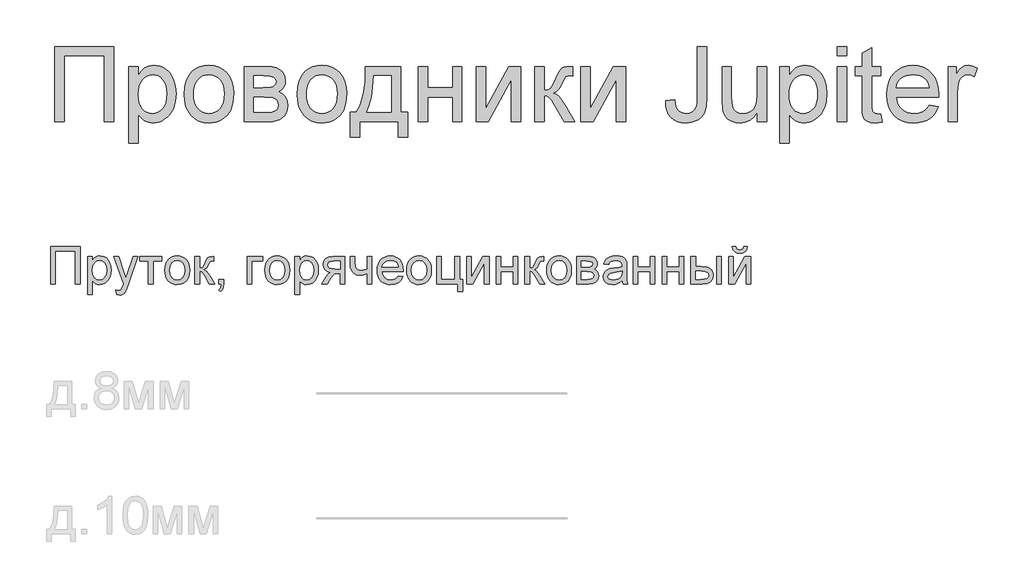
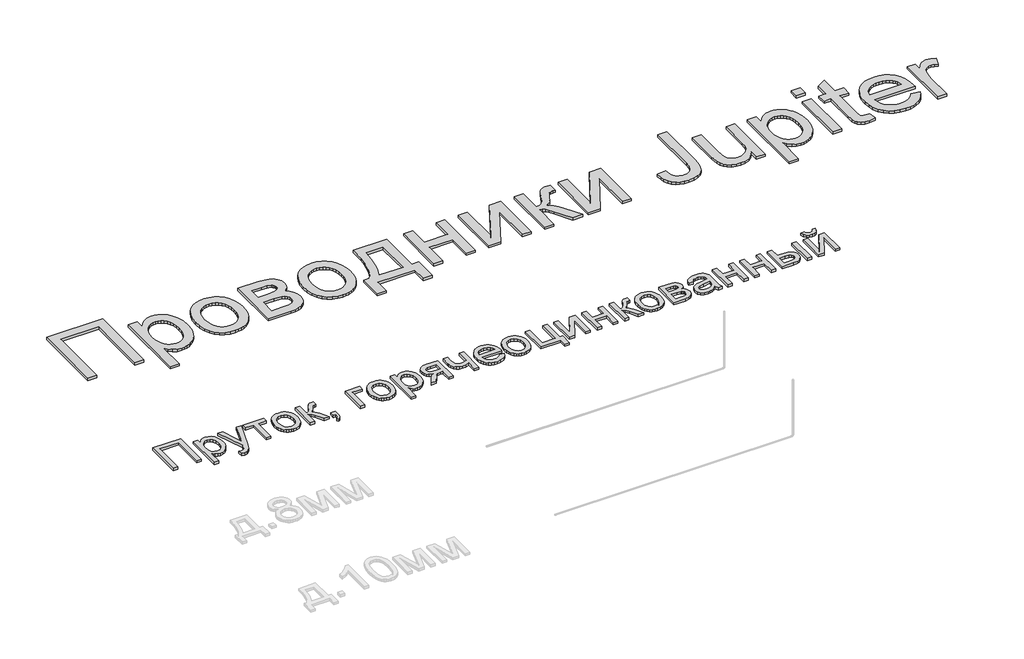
# One storey, part 97 of 124: 2 proxies.
"""IFC4 building model written with IfcOpenShell, lengths in millimetres."""

from ifc_helpers import new_model, si_unit, origin, origin_with_axes, place, context, project, spatial, polyline, outline, extrude, element, save

model = new_model("IFC4")

# Units and contexts
model_context = context("Model", 3, world=origin())
ifc_project = project(units=[si_unit("LENGTHUNIT", "METRE", prefix="MILLI")], contexts=[model_context])

# Site, building, storey
site = spatial("IfcSite", under=ifc_project)
building = spatial("IfcBuilding", under=site)
storey = spatial("IfcBuildingStorey", under=building, Name="Этаж 01", Elevation=0.0)

# Proxies
placement = place(None, origin())
element("IfcBuildingElementProxy", 1, Name="600 мм Arial", ObjectType="600 мм Arial", at=placement, inside=storey, context=model_context, shape_type="SweptSolid", body=[
    extrude(outline(polyline([(1332.7842945, -2616.7762424), (1803.6732483, -2616.7762424), (1803.6732483, -3219.5141033), (1728.3310157, -3219.5141033), (1728.3310157, -2692.118475), (1408.1265271, -2692.118475), (1408.1265271, -3219.5141033), (1332.7842945, -3219.5141033), (1332.7842945, -2616.7762424)])), origin_with_axes(), (0.0, 0.0, 1.0), 20.0),
    extrude(outline(polyline([(1926.1043763, -3389.0341266), (1926.1043763, -2776.8784867), (2001.4466089, -2776.8784867), (2001.4466089, -2850.7491913), (2026.0211262, -2814.3104797), (2053.5386994, -2788.2828285), (2085.6180094, -2772.6662378), (2123.8777369, -2767.4607076), (2150.1537084, -2769.2817235), (2174.8293932, -2774.7447711), (2197.9047914, -2783.8498505), (2219.3799028, -2796.5969616), (2238.7856781, -2812.6550107), (2255.6530676, -2831.6929039), (2269.9820713, -2853.7106414), (2281.7726892, -2878.7082229), (2297.5548268, -2934.221616), (2302.8155393, -2994.8117806), (2296.8742451, -3059.2463121), (2289.4476273, -3088.9113964), (2279.0503625, -3116.8750266), (2265.8250047, -3142.4060371), (2249.9141084, -3164.7732624), (2231.3176736, -3183.9767025), (2210.0357002, -3200.0163575), (2187.1120533, -3212.6668996), (2163.5905983, -3221.7030011), (2139.471335, -3227.124662), (2114.7542634, -3228.9318823), (2080.1181736, -3224.0942341), (2049.1976919, -3209.5812894), (2022.7285823, -3187.6739166), (2001.4466089, -3160.652984), (2001.4466089, -3389.0341266), (1926.1043763, -3389.0341266)]), holes=[polyline([(2001.4466089, -3001.7279621), (2003.4837554, -3038.037915), (2009.5951951, -3069.2710964), (2019.7809278, -3095.4275063), (2034.0409537, -3116.5071446), (2051.2072473, -3132.7307406), (2070.1117833, -3144.3190234), (2090.7545617, -3151.2719932), (2113.1355826, -3153.5896497), (2135.8385003, -3151.1892197), (2156.8583578, -3143.9879297), (2176.1951551, -3131.9857796), (2193.8488924, -3115.1827694), (2208.5595737, -3093.339776), (2219.0672031, -3066.2176759), (2225.3717808, -3033.8164691), (2227.4733067, -2996.1361558), (2225.4223646, -2960.1389026), (2219.2695382, -2928.9609035), (2209.0148276, -2902.6021585), (2194.6582328, -2881.0626677), (2177.4505524, -2864.3240369), (2158.6425854, -2852.3678721), (2138.2343318, -2845.1941732), (2116.2257914, -2842.8029402), (2094.2862289, -2845.3459245), (2073.6434504, -2852.9748774), (2054.297456, -2865.6897988), (2036.2482456, -2883.4906889), (2021.0225296, -2906.1384242), (2010.1470181, -2933.3938815), (2003.6217112, -2965.2570608), (2001.4466089, -3001.7279621)])]), origin_with_axes(), (0.0, 0.0, 1.0), 20.0),
    extrude(outline(polyline([(2368.7399929, -2998.196295), (2372.814286, -2940.8710831), (2385.0371653, -2891.4737282), (2405.4086307, -2850.0042303), (2433.9286824, -2816.4625893), (2462.6418721, -2795.0242661), (2494.334906, -2779.711178), (2529.0077841, -2770.5233252), (2566.6605063, -2767.4607076), (2608.2265732, -2771.1901113), (2645.8103175, -2782.3783225), (2679.4117393, -2801.0253411), (2709.0308384, -2827.1311672), (2733.205284, -2859.812884), (2750.4727452, -2898.1875746), (2760.8332219, -2942.2552391), (2764.2867141, -2992.0158774), (2762.7600038, -3032.3449412), (2758.179873, -3068.1306622), (2750.5463216, -3099.3730407), (2739.8593496, -3126.0720765), (2726.2523143, -3149.1336791), (2709.8585729, -3169.4637578), (2690.6781254, -3187.0623128), (2668.7109717, -3201.9293439), (2644.8124376, -3213.7429545), (2619.8378487, -3222.1812477), (2593.7872049, -3227.2442237), (2566.6605063, -3228.9318823), (2524.4874341, -3225.2162742), (2486.5542018, -3214.0694497), (2452.8608096, -3195.491409), (2423.4072574, -3169.4821519), (2399.4903292, -3136.4831369), (2382.406809, -3096.9358225), (2372.1566969, -3050.8402085), (2368.7399929, -2998.196295)]), holes=[polyline([(2444.0822255, -2998.0491422), (2446.2619263, -3034.5936199), (2452.8010288, -3066.23607), (2463.6995329, -3092.9764925), (2478.9574386, -3114.8148874), (2497.5170853, -3131.7788459), (2518.3208121, -3143.8959592), (2541.3686191, -3151.1662271), (2566.6605063, -3153.5896497), (2591.8236348, -3151.1524315), (2614.7794713, -3143.8407769), (2635.5280158, -3131.6546858), (2654.0692683, -3114.5941582), (2669.3271741, -3092.5396326), (2680.2256782, -3065.3715473), (2686.7647807, -3033.0899022), (2688.9444815, -2995.6946974), (2686.7509851, -2960.309048), (2680.1704959, -2929.4943324), (2669.2030139, -2903.2505505), (2653.8485391, -2881.5777025), (2635.2383087, -2864.613744), (2614.5035598, -2852.4966308), (2591.6442923, -2845.2263628), (2566.6605063, -2842.8029402), (2541.3686191, -2845.2171658), (2518.3208121, -2852.4598426), (2497.5170853, -2864.5309705), (2478.9574386, -2881.4305497), (2463.6995329, -2903.2045653), (2452.8010288, -2929.8990026), (2446.2619263, -2961.5138615), (2444.0822255, -2998.0491422)])]), origin_with_axes(), (0.0, 0.0, 1.0), 20.0),
    extrude(outline(polyline([(2849.0467258, -2776.8784867), (3015.035082, -2776.8784867), (3068.3963654, -2779.3984783), (3106.0490876, -2786.9584533), (3133.7506018, -2801.2322747), (3157.2582613, -2823.8938056), (3173.3163104, -2853.4163358), (3178.6689935, -2888.2731548), (3175.4316319, -2916.3609451), (3165.7195472, -2940.5859745), (3149.4959512, -2961.0586075), (3126.7240557, -2977.8892088), (3154.609511, -2993.5425877), (3177.3446183, -3018.7241103), (3192.4645683, -3051.4472138), (3197.5045516, -3089.7253354), (3193.3198939, -3120.5630436), (3184.7390464, -3147.1517148), (3171.762009, -3169.491349), (3154.3887818, -3187.5819461), (3132.5917736, -3201.5522648), (3106.3433932, -3211.531064), (3075.6436407, -3217.5183434), (3040.4925161, -3219.5141033), (2849.0467258, -3219.5141033), (2849.0467258, -2776.8784867)]), holes=[polyline([(2924.3889584, -2946.39851), (2998.8482742, -2946.39851), (3060.2845674, -2942.5725373), (3076.1034932, -2936.8335782), (3090.1565854, -2927.2686463), (3100.034217, -2914.6135057), (3103.3267608, -2899.6039203), (3101.882824, -2887.3626469), (3097.5510135, -2877.1263303), (3090.3313294, -2868.8949707), (3080.2237716, -2862.6685679), (3048.9170138, -2854.8326814), (3001.202719, -2852.2207193), (2924.3889584, -2852.2207193), (2924.3889584, -2946.39851)]), polyline([(2924.3889584, -3144.1718706), (3016.8009156, -3144.1718706), (3067.1639607, -3140.7689622), (3098.7650241, -3130.5602368), (3108.5598822, -3122.5174167), (3115.7243841, -3112.0005902), (3122.162319, -3083.5449178), (3118.9433515, -3064.6909656), (3109.2864492, -3047.2717531), (3094.4608048, -3033.6417252), (3075.7356112, -3026.1553266), (3009.4432757, -3021.7407427), (2924.3889584, -3021.7407427), (2924.3889584, -3144.1718706)])]), origin_with_axes(), (0.0, 0.0, 1.0), 20.0),
    extrude(outline(polyline([(3272.8467842, -2998.196295), (3276.9210773, -2940.8710831), (3289.1439566, -2891.4737282), (3309.5154221, -2850.0042303), (3338.0354738, -2816.4625893), (3366.7486635, -2795.0242661), (3398.4416974, -2779.711178), (3433.1145754, -2770.5233252), (3470.7672976, -2767.4607076), (3512.3333646, -2771.1901113), (3549.9171089, -2782.3783225), (3583.5185306, -2801.0253411), (3613.1376298, -2827.1311672), (3637.3120754, -2859.812884), (3654.5795365, -2898.1875746), (3664.9400132, -2942.2552391), (3668.3935054, -2992.0158774), (3666.8667952, -3032.3449412), (3662.2866643, -3068.1306622), (3654.6531129, -3099.3730407), (3643.966141, -3126.0720765), (3630.3591057, -3149.1336791), (3613.9653643, -3169.4637578), (3594.7849167, -3187.0623128), (3572.8177631, -3201.9293439), (3548.919229, -3213.7429545), (3523.94464, -3222.1812477), (3497.8939963, -3227.2442237), (3470.7672976, -3228.9318823), (3428.5942254, -3225.2162742), (3390.6609932, -3214.0694497), (3356.9676009, -3195.491409), (3327.5140487, -3169.4821519), (3303.5971205, -3136.4831369), (3286.5136003, -3096.9358225), (3276.2634883, -3050.8402085), (3272.8467842, -2998.196295)]), holes=[polyline([(3348.1890168, -2998.0491422), (3350.3687177, -3034.5936199), (3356.9078201, -3066.23607), (3367.8063242, -3092.9764925), (3383.06423, -3114.8148874), (3401.6238766, -3131.7788459), (3422.4276035, -3143.8959592), (3445.4754105, -3151.1662271), (3470.7672976, -3153.5896497), (3495.9304261, -3151.1524315), (3518.8862626, -3143.8407769), (3539.6348071, -3131.6546858), (3558.1760597, -3114.5941582), (3573.4339654, -3092.5396326), (3584.3324695, -3065.3715473), (3590.871572, -3033.0899022), (3593.0512728, -2995.6946974), (3590.8577764, -2960.309048), (3584.2772872, -2929.4943324), (3573.3098053, -2903.2505505), (3557.9553305, -2881.5777025), (3539.3451001, -2864.613744), (3518.6103511, -2852.4966308), (3495.7510836, -2845.2263628), (3470.7672976, -2842.8029402), (3445.4754105, -2845.2171658), (3422.4276035, -2852.4598426), (3401.6238766, -2864.5309705), (3383.06423, -2881.4305497), (3367.8063242, -2903.2045653), (3356.9078201, -2929.8990026), (3350.3687177, -2961.5138615), (3348.1890168, -2998.0491422)])]), origin_with_axes(), (0.0, 0.0, 1.0), 20.0),
    extrude(outline(polyline([(3819.0779707, -2776.8784867), (4101.611343, -2776.8784867), (4101.611343, -3144.1718706), (4158.1180174, -3144.1718706), (4158.1180174, -3341.9452313), (4082.7757848, -3341.9452313), (4082.7757848, -3219.5141033), (3771.9890753, -3219.5141033), (3771.9890753, -3341.9452313), (3696.6468427, -3341.9452313), (3696.6468427, -3144.1718706), (3743.7357381, -3144.1718706), (3762.1344363, -3115.7391909), (3777.9671577, -3082.3125132), (3791.2339022, -3043.8918373), (3801.9346697, -3000.4771633), (3810.0694603, -2952.0684913), (3815.638274, -2898.6658212), (3819.0779707, -2776.8784867)]), holes=[polyline([(3885.0024242, -2852.2207193), (3878.8220067, -2944.4671296), (3867.3440884, -3023.8744582), (3850.5686695, -3090.4427053), (3828.4957497, -3144.1718706), (4026.2691103, -3144.1718706), (4026.2691103, -2852.2207193), (3885.0024242, -2852.2207193)])]), origin_with_axes(), (0.0, 0.0, 1.0), 20.0),
    extrude(outline(polyline([(4242.8780291, -2776.8784867), (4318.2202617, -2776.8784867), (4318.2202617, -2946.39851), (4515.9936223, -2946.39851), (4515.9936223, -2776.8784867), (4591.3358549, -2776.8784867), (4591.3358549, -3219.5141033), (4515.9936223, -3219.5141033), (4515.9936223, -3021.7407427), (4318.2202617, -3021.7407427), (4318.2202617, -3219.5141033), (4242.8780291, -3219.5141033), (4242.8780291, -2776.8784867)])), origin_with_axes(), (0.0, 0.0, 1.0), 20.0),
    extrude(outline(polyline([(4704.3492039, -2776.8784867), (4779.6914365, -2776.8784867), (4779.6914365, -3114.4470054), (4964.8096564, -2776.8784867), (5062.2248088, -2776.8784867), (5062.2248088, -3219.5141033), (4986.8825762, -3219.5141033), (4986.8825762, -2884.0057237), (4802.9415786, -3219.5141033), (4704.3492039, -3219.5141033), (4704.3492039, -2776.8784867)])), origin_with_axes(), (0.0, 0.0, 1.0), 20.0),
    extrude(outline(polyline([(5175.2381577, -2776.8784867), (5250.5803903, -2776.8784867), (5250.5803903, -2965.2340682), (5281.2249605, -2961.8495538), (5301.0538, -2951.6960108), (5318.6017712, -2925.2085071), (5342.4037363, -2872.822111), (5361.5887823, -2829.9822527), (5376.7639146, -2804.7639419), (5390.9273715, -2791.0235494), (5407.077391, -2782.6174458), (5429.4262223, -2778.3132264), (5462.1861139, -2776.8784867), (5476.6070881, -2776.8784867), (5476.6070881, -2852.6621777), (5456.300002, -2852.2207193), (5432.7555543, -2854.2072821), (5419.5118025, -2860.1669704), (5408.7696482, -2876.7584484), (5393.61291, -2909.7574633), (5377.7020137, -2942.8116606), (5363.2258572, -2963.3946582), (5345.6962801, -2977.1350507), (5320.6251222, -2989.6614327), (5344.5006637, -3000.2656312), (5368.155476, -3018.9816277), (5391.589559, -3045.8094222), (5414.8029129, -3080.7490147), (5495.4426463, -3219.5141033), (5409.7997178, -3219.5141033), (5330.7786652, -3083.6920706), (5309.4415095, -3047.5476646), (5291.0474098, -3026.228903), (5272.469369, -3015.7994484), (5250.5803903, -3012.3229636), (5250.5803903, -3219.5141033), (5175.2381577, -3219.5141033), (5175.2381577, -2776.8784867)])), origin_with_axes(), (0.0, 0.0, 1.0), 20.0),
    extrude(outline(polyline([(5542.5315417, -2776.8784867), (5617.8737743, -2776.8784867), (5617.8737743, -3114.4470054), (5802.9919943, -2776.8784867), (5900.4071466, -2776.8784867), (5900.4071466, -3219.5141033), (5825.064914, -3219.5141033), (5825.064914, -2884.0057237), (5641.1239164, -3219.5141033), (5542.5315417, -3219.5141033), (5542.5315417, -2776.8784867)])), origin_with_axes(), (0.0, 0.0, 1.0), 20.0),
    extrude(outline(polyline([(6220.6116352, -3050.2883855), (6295.9538678, -3040.5763008), (6298.6118152, -3070.5310923), (6303.7897543, -3095.3539299), (6311.487685, -3115.0448137), (6321.7056075, -3129.6037436), (6334.2871717, -3140.0975776), (6349.0760279, -3147.5931732), (6366.0721761, -3152.0905306), (6385.2756162, -3153.5896497), (6413.1058892, -3150.1867413), (6436.8526719, -3139.9780159), (6455.1731953, -3123.9015727), (6466.72469, -3102.8955108), (6472.8499252, -3072.4900639), (6474.8916702, -3028.2154658), (6474.8916702, -2616.7762424), (6550.2339029, -2616.7762424), (6550.2339029, -3026.8910906), (6545.6905602, -3093.9743724), (6540.0113819, -3121.101071), (6532.0605323, -3143.9511415), (6521.6402748, -3163.4350916), (6508.5528728, -3180.4634295), (6492.7983264, -3195.036155), (6474.3766355, -3207.1532682), (6431.4632007, -3223.4872288), (6381.7439491, -3228.9318823), (6344.6154587, -3226.1221836), (6312.1038874, -3217.6930874), (6284.2092351, -3203.6445937), (6260.9315018, -3183.9767025), (6242.6845549, -3158.7629903), (6229.8822615, -3128.0770334), (6222.5246216, -3091.9188318), (6220.6116352, -3050.2883855)])), origin_with_axes(), (0.0, 0.0, 1.0), 20.0),
    extrude(outline(polyline([(6955.1984031, -3219.5141033), (6955.1984031, -3143.4361067), (6927.9383473, -3180.8405085), (6896.1901311, -3207.5579384), (6859.9537546, -3223.5883964), (6819.2292177, -3228.9318823), (6782.5329887, -3225.179486), (6748.3751455, -3213.9222969), (6719.717138, -3196.9997252), (6699.5204165, -3176.2511806), (6685.9271768, -3151.051264), (6677.0796148, -3120.7745758), (6672.6650309, -3050.7298439), (6672.6650309, -2776.8784867), (6748.0072635, -2776.8784867), (6748.0072635, -3015.2660195), (6749.1476976, -3062.9435261), (6752.5690002, -3092.0797801), (6763.5502778, -3117.7027611), (6782.3674418, -3137.1821127), (6807.7696936, -3149.4877655), (6838.5062343, -3153.5896497), (6871.0086086, -3149.395795), (6901.4140555, -3136.8142307), (6926.4852134, -3117.0037853), (6942.9847209, -3091.1232869), (6952.1449826, -3055.6778567), (6955.1984031, -3007.1726156), (6955.1984031, -2776.8784867), (7030.5406358, -2776.8784867), (7030.5406358, -3219.5141033), (6955.1984031, -3219.5141033)])), origin_with_axes(), (0.0, 0.0, 1.0), 20.0),
    extrude(outline(polyline([(7134.1362056, -3389.0341266), (7134.1362056, -2776.8784867), (7209.4784382, -2776.8784867), (7209.4784382, -2850.7491913), (7234.0529555, -2814.3104797), (7261.5705287, -2788.2828285), (7293.6498387, -2772.6662378), (7331.9095662, -2767.4607076), (7358.1855377, -2769.2817235), (7382.8612225, -2774.7447711), (7405.9366207, -2783.8498505), (7427.4117322, -2796.5969616), (7446.8175074, -2812.6550107), (7463.6848969, -2831.6929039), (7478.0139006, -2853.7106414), (7489.8045185, -2878.7082229), (7505.5866561, -2934.221616), (7510.8473687, -2994.8117806), (7504.9060744, -3059.2463121), (7497.4794567, -3088.9113964), (7487.0821918, -3116.8750266), (7473.856834, -3142.4060371), (7457.9459378, -3164.7732624), (7439.3495029, -3183.9767025), (7418.0675295, -3200.0163575), (7395.1438827, -3212.6668996), (7371.6224276, -3221.7030011), (7347.5031643, -3227.124662), (7322.7860927, -3228.9318823), (7288.1500029, -3224.0942341), (7257.2295212, -3209.5812894), (7230.7604116, -3187.6739166), (7209.4784382, -3160.652984), (7209.4784382, -3389.0341266), (7134.1362056, -3389.0341266)]), holes=[polyline([(7209.4784382, -3001.7279621), (7211.5155848, -3038.037915), (7217.6270244, -3069.2710964), (7227.8127571, -3095.4275063), (7242.072783, -3116.5071446), (7259.2390766, -3132.7307406), (7278.1436126, -3144.3190234), (7298.7863911, -3151.2719932), (7321.1674119, -3153.5896497), (7343.8703296, -3151.1892197), (7364.8901871, -3143.9879297), (7384.2269844, -3131.9857796), (7401.8807217, -3115.1827694), (7416.591403, -3093.339776), (7427.0990325, -3066.2176759), (7433.4036102, -3033.8164691), (7435.5051361, -2996.1361558), (7433.4541939, -2960.1389026), (7427.3013676, -2928.9609035), (7417.0466569, -2902.6021585), (7402.6900621, -2881.0626677), (7385.4823818, -2864.3240369), (7366.6744148, -2852.3678721), (7346.2661611, -2845.1941732), (7324.2576207, -2842.8029402), (7302.3180582, -2845.3459245), (7281.6752798, -2852.9748774), (7262.3292853, -2865.6897988), (7244.280075, -2883.4906889), (7229.0543589, -2906.1384242), (7218.1788474, -2933.3938815), (7211.6535405, -2965.2570608), (7209.4784382, -3001.7279621)])]), origin_with_axes(), (0.0, 0.0, 1.0), 20.0),
    extrude(outline(polyline([(7595.6073804, -2692.118475), (7595.6073804, -2616.7762424), (7670.949613, -2616.7762424), (7670.949613, -2692.118475), (7595.6073804, -2692.118475)])), origin_with_axes(), (0.0, 0.0, 1.0), 20.0),
    extrude(outline(polyline([(7595.6073804, -3219.5141033), (7595.6073804, -2776.8784867), (7670.949613, -2776.8784867), (7670.949613, -3219.5141033), (7595.6073804, -3219.5141033)])), origin_with_axes(), (0.0, 0.0, 1.0), 20.0),
    extrude(outline(polyline([(7944.0652062, -3156.6798585), (7953.4829853, -3221.7213952), (7897.1234636, -3228.9318823), (7860.9606635, -3225.8048854), (7833.9949132, -3216.4238945), (7814.9386259, -3201.9661321), (7802.5042144, -3183.6088205), (7795.6616093, -3152.0813335), (7793.380741, -3098.1130449), (7793.380741, -2852.2207193), (7736.8740665, -2852.2207193), (7736.8740665, -2776.8784867), (7793.380741, -2776.8784867), (7793.380741, -2669.3097913), (7868.7229736, -2625.0167991), (7868.7229736, -2776.8784867), (7944.0652062, -2776.8784867), (7944.0652062, -2852.2207193), (7868.7229736, -2852.2207193), (7868.7229736, -3095.9057529), (7872.6960991, -3134.7540916), (7885.5719689, -3148.5128782), (7896.4428819, -3152.3204568), (7911.2501322, -3153.5896497), (7944.0652062, -3156.6798585)])), origin_with_axes(), (0.0, 0.0, 1.0), 20.0),
    extrude(outline(polyline([(8329.3112315, -3087.6651962), (8403.1819362, -3097.0829753), (8391.8557692, -3126.6698847), (8376.5656738, -3152.7435211), (8357.3116499, -3175.3038845), (8334.0936975, -3194.3509748), (8307.1509398, -3209.4801218), (8276.7225003, -3220.2866555), (8242.8083789, -3226.7705756), (8205.4085756, -3228.9318823), (8158.659971, -3225.2024786), (8117.0065321, -3214.0142674), (8080.4482588, -3195.3672488), (8048.9851512, -3169.2614227), (8023.684067, -3136.4233561), (8005.611864, -3097.579616), (7994.7685422, -3052.7302022), (7991.1541016, -3001.8751149), (7994.8053304, -2949.2955808), (8005.7590168, -2902.9516464), (8024.0151608, -2862.8433119), (8049.5737624, -2828.9705772), (8080.9540966, -2802.0600092), (8116.6754383, -2782.838175), (8156.7377876, -2771.3050744), (8201.1411444, -2767.4607076), (8244.11436, -2771.2958774), (8282.9764942, -2782.8013868), (8317.7275472, -2801.9772358), (8348.3675189, -2828.8234244), (8373.378896, -2862.6225827), (8391.2441654, -2902.6573408), (8401.9633271, -2948.9276988), (8405.5363809, -3001.4336565), (8405.0949225, -3021.7407427), (8066.4963342, -3021.7407427), (8070.8603343, -3051.8058987), (8079.5377509, -3078.1370525), (8092.5285839, -3100.7342041), (8109.8328332, -3119.5973534), (8130.4940058, -3134.468983), (8153.5556083, -3145.0915756), (8179.0176409, -3151.4651312), (8206.8801035, -3153.5896497), (8246.979241, -3149.6533124), (8280.7508082, -3137.8443003), (8308.194805, -3117.4268496), (8329.3112315, -3087.6651962)]), holes=[polyline([(8066.4963342, -2946.39851), (8330.1941483, -2946.39851), (8320.0038171, -2906.5936782), (8311.2390285, -2890.9402993), (8300.0278247, -2878.1196117), (8279.4816153, -2862.6685679), (8256.1027145, -2851.6321081), (8229.8911223, -2845.0102322), (8200.8468388, -2842.8029402), (8174.3547366, -2844.5641753), (8150.0607294, -2849.8478804), (8127.964817, -2858.6540557), (8108.0669996, -2870.982701), (8091.3697556, -2886.2635994), (8078.8755633, -2903.9265337), (8070.5844228, -2923.9715039), (8066.4963342, -2946.39851)])]), origin_with_axes(), (0.0, 0.0, 1.0), 20.0),
    extrude(outline(polyline([(8480.8786135, -3219.5141033), (8480.8786135, -2776.8784867), (8546.8030671, -2776.8784867), (8546.8030671, -2842.3614818), (8571.1568552, -2804.3960599), (8593.5976569, -2782.0288346), (8616.112035, -2771.1027393), (8640.6865522, -2767.4607076), (8678.2105158, -2773.2732431), (8716.3230905, -2790.7108497), (8691.159962, -2858.253984), (8664.6724583, -2846.6657011), (8638.1849547, -2842.8029402), (8615.6889707, -2846.5185484), (8595.5842196, -2857.6653728), (8579.3422296, -2875.397285), (8568.4345284, -2898.8681563), (8559.2742667, -2940.9538565), (8556.2208462, -2986.8655295), (8556.2208462, -3219.5141033), (8480.8786135, -3219.5141033)])), origin_with_axes(), (0.0, 0.0, 1.0), 20.0),
])
element("IfcBuildingElementProxy", 2, Name="300", ObjectType="300", at=placement, inside=storey, context=model_context, shape_type="SweptSolid", body=[
    extrude(outline(polyline([(1299.8220677, -4218.1451728), (1535.2665446, -4218.1451728), (1535.2665446, -4519.5141033), (1497.5954283, -4519.5141033), (1497.5954283, -4255.8162891), (1337.493184, -4255.8162891), (1337.493184, -4519.5141033), (1299.8220677, -4519.5141033), (1299.8220677, -4218.1451728)])), origin_with_axes(), (0.0, 0.0, 1.0), 20.0),
    extrude(outline(polyline([(1596.4821086, -4604.2741149), (1596.4821086, -4298.196295), (1634.1532249, -4298.196295), (1634.1532249, -4335.1316473), (1646.4404835, -4316.9122915), (1660.1992702, -4303.8984659), (1676.2389252, -4296.0901705), (1695.3687889, -4293.4874054), (1720.8446171, -4297.1294372), (1743.1198719, -4308.0555324), (1761.2564542, -4325.6035036), (1774.3162651, -4349.1111631), (1782.2073339, -4376.8678596), (1784.8376901, -4407.1629419), (1781.867043, -4439.3802077), (1772.9551017, -4468.1945649), (1758.3869747, -4492.1436828), (1738.4477705, -4509.7652304), (1715.2252196, -4520.6085522), (1690.8070522, -4524.2229928), (1673.4890072, -4521.8041687), (1658.0287664, -4514.5476963), (1644.7942116, -4503.5940099), (1634.1532249, -4490.0835436), (1634.1532249, -4604.2741149), (1596.4821086, -4604.2741149)]), holes=[polyline([(1634.1532249, -4410.6210327), (1638.227518, -4444.3925998), (1650.4503973, -4468.0106239), (1668.4858121, -4481.9165634), (1689.9977118, -4486.5518765), (1711.8590993, -4481.7510165), (1730.3543666, -4467.3484363), (1742.963522, -4442.8658896), (1747.1665738, -4407.8251295), (1743.0646896, -4374.2375034), (1730.7590368, -4350.2883855), (1712.7512132, -4335.9409877), (1691.5428162, -4331.1585217), (1670.2516457, -4336.2444903), (1651.5540433, -4351.5023961), (1638.5034295, -4376.4539924), (1634.1532249, -4410.6210327)])]), origin_with_axes(), (0.0, 0.0, 1.0), 20.0),
    extrude(outline(polyline([(1827.217696, -4604.2741149), (1822.5088064, -4568.0009502), (1841.6386702, -4571.3118882), (1859.5177352, -4567.1548216), (1870.4806186, -4555.5665388), (1880.7813145, -4527.8282364), (1883.7243704, -4518.7047629), (1803.6732483, -4298.196295), (1843.4045038, -4298.196295), (1885.858086, -4421.0688814), (1900.6469422, -4470.2179159), (1915.4357984, -4426.8078405), (1959.0666031, -4298.196295), (1998.5035529, -4298.196295), (1921.4690631, -4524.811604), (1901.4562826, -4573.9606385), (1891.210769, -4589.6508056), (1879.6040921, -4600.5217186), (1866.121217, -4606.867683), (1850.2471089, -4608.9830045), (1827.217696, -4604.2741149)])), origin_with_axes(), (0.0, 0.0, 1.0), 20.0),
    extrude(outline(polyline([(2010.864388, -4298.196295), (2189.8021904, -4298.196295), (2189.8021904, -4335.8674113), (2119.1688474, -4335.8674113), (2119.1688474, -4519.5141033), (2081.497731, -4519.5141033), (2081.497731, -4335.8674113), (2010.864388, -4335.8674113), (2010.864388, -4298.196295)])), origin_with_axes(), (0.0, 0.0, 1.0), 20.0),
    extrude(outline(polyline([(2213.3466381, -4408.8551991), (2215.3837847, -4380.1925932), (2221.4952243, -4355.4939157), (2231.6809571, -4334.7591668), (2245.9409829, -4317.9883463), (2260.2975778, -4307.2691847), (2276.1440947, -4299.6126406), (2293.4805337, -4295.0187142), (2312.3068948, -4293.4874054), (2333.0899283, -4295.3521073), (2351.8818005, -4300.9462129), (2368.6825113, -4310.2697222), (2383.4920609, -4323.3226352), (2395.5792837, -4339.6634936), (2404.2130143, -4358.8508389), (2409.3932526, -4380.8846712), (2411.1199987, -4405.7649904), (2408.0665782, -4443.8223828), (2398.9063165, -4472.7930899), (2383.9059281, -4494.4889305), (2363.3321276, -4510.7217236), (2338.895566, -4520.8476755), (2312.3068948, -4524.2229928), (2291.2203587, -4522.3651887), (2272.2537426, -4516.7917765), (2255.4070465, -4507.5027561), (2240.6802704, -4494.4981276), (2228.7218063, -4477.9986201), (2220.1800462, -4458.2249629), (2215.0549901, -4435.1771559), (2213.3466381, -4408.8551991)]), holes=[polyline([(2251.0177544, -4408.7816227), (2255.3771561, -4442.8750866), (2268.455361, -4467.1644953), (2288.1370477, -4481.7050312), (2312.3068948, -4486.5518765), (2336.3663773, -4481.6774401), (2356.0112758, -4467.0541307), (2369.0894808, -4442.4428253), (2373.4488824, -4407.6044003), (2369.0618896, -4374.5042178), (2355.9009112, -4350.5459029), (2336.2284216, -4336.005367), (2312.3068948, -4331.1585217), (2288.1370477, -4335.9869729), (2268.455361, -4350.4723265), (2255.3771561, -4374.7065529), (2251.0177544, -4408.7816227)])]), origin_with_axes(), (0.0, 0.0, 1.0), 20.0),
    extrude(outline(polyline([(2453.5000046, -4298.196295), (2491.1711209, -4298.196295), (2491.1711209, -4392.3740857), (2506.493406, -4390.6818285), (2516.4078257, -4385.605057), (2525.1818113, -4372.3613052), (2537.0827939, -4346.1681071), (2554.262883, -4312.1390226), (2569.4196212, -4301.0657745), (2596.9739827, -4298.196295), (2604.1844698, -4298.196295), (2604.1844698, -4336.0881405), (2594.0309267, -4335.8674113), (2575.636827, -4339.8405368), (2562.6873807, -4364.6357833), (2547.4938543, -4391.4543807), (2526.1934868, -4404.587768), (2538.1312576, -4409.8898672), (2549.9586637, -4419.2478655), (2573.2823822, -4450.131559), (2613.6022489, -4519.5141033), (2570.7807846, -4519.5141033), (2531.2702583, -4451.603087), (2511.4046306, -4422.8715031), (2502.1156102, -4417.6567758), (2491.1711209, -4415.9185334), (2491.1711209, -4519.5141033), (2453.5000046, -4519.5141033), (2453.5000046, -4298.196295)])), origin_with_axes(), (0.0, 0.0, 1.0), 20.0),
    extrude(outline(polyline([(2646.5644756, -4519.5141033), (2646.5644756, -4481.842987), (2684.2355919, -4481.842987), (2684.2355919, -4519.5141033), (2682.5433348, -4541.0627911), (2677.4665632, -4558.0313482), (2668.7109717, -4571.0451737), (2655.9822547, -4580.7296673), (2646.5644756, -4566.6029986), (2654.7314559, -4559.7787876), (2660.3968387, -4550.3426145), (2665.3264574, -4519.5141033), (2646.5644756, -4519.5141033)])), origin_with_axes(), (0.0, 0.0, 1.0), 20.0),
    extrude(outline(polyline([(2872.5911735, -4298.196295), (2995.0223015, -4298.196295), (2995.0223015, -4335.8674113), (2910.2622898, -4335.8674113), (2910.2622898, -4519.5141033), (2872.5911735, -4519.5141033), (2872.5911735, -4298.196295)])), origin_with_axes(), (0.0, 0.0, 1.0), 20.0),
    extrude(outline(polyline([(3013.8578596, -4408.8551991), (3015.8950062, -4380.1925932), (3022.0064458, -4355.4939157), (3032.1921786, -4334.7591668), (3046.4522044, -4317.9883463), (3060.8087993, -4307.2691847), (3076.6553162, -4299.6126406), (3093.9917552, -4295.0187142), (3112.8181163, -4293.4874054), (3133.6011498, -4295.3521073), (3152.393022, -4300.9462129), (3169.1937328, -4310.2697222), (3184.0032824, -4323.3226352), (3196.0905052, -4339.6634936), (3204.7242358, -4358.8508389), (3209.9044741, -4380.8846712), (3211.6312202, -4405.7649904), (3208.5777997, -4443.8223828), (3199.417538, -4472.7930899), (3184.4171496, -4494.4889305), (3163.8433491, -4510.7217236), (3139.4067875, -4520.8476755), (3112.8181163, -4524.2229928), (3091.7315802, -4522.3651887), (3072.7649641, -4516.7917765), (3055.918268, -4507.5027561), (3041.1914919, -4494.4981276), (3029.2330278, -4477.9986201), (3020.6912677, -4458.2249629), (3015.5662116, -4435.1771559), (3013.8578596, -4408.8551991)]), holes=[polyline([(3051.5289759, -4408.7816227), (3055.8883776, -4442.8750866), (3068.9665825, -4467.1644953), (3088.6482692, -4481.7050312), (3112.8181163, -4486.5518765), (3136.8775988, -4481.6774401), (3156.5224974, -4467.0541307), (3169.6007023, -4442.4428253), (3173.9601039, -4407.6044003), (3169.5731111, -4374.5042178), (3156.4121328, -4350.5459029), (3136.7396431, -4336.005367), (3112.8181163, -4331.1585217), (3088.6482692, -4335.9869729), (3068.9665825, -4350.4723265), (3055.8883776, -4374.7065529), (3051.5289759, -4408.7816227)])]), origin_with_axes(), (0.0, 0.0, 1.0), 20.0),
    extrude(outline(polyline([(3254.0112261, -4604.2741149), (3254.0112261, -4298.196295), (3291.6823424, -4298.196295), (3291.6823424, -4335.1316473), (3303.969601, -4316.9122915), (3317.7283876, -4303.8984659), (3333.7680426, -4296.0901705), (3352.8979064, -4293.4874054), (3378.3737345, -4297.1294372), (3400.6489894, -4308.0555324), (3418.7855717, -4325.6035036), (3431.8453825, -4349.1111631), (3439.7364513, -4376.8678596), (3442.3668076, -4407.1629419), (3439.3961605, -4439.3802077), (3430.4842192, -4468.1945649), (3415.9160922, -4492.1436828), (3395.976888, -4509.7652304), (3372.7543371, -4520.6085522), (3348.3361696, -4524.2229928), (3331.0181247, -4521.8041687), (3315.5578839, -4514.5476963), (3302.3233291, -4503.5940099), (3291.6823424, -4490.0835436), (3291.6823424, -4604.2741149), (3254.0112261, -4604.2741149)]), holes=[polyline([(3291.6823424, -4410.6210327), (3295.7566355, -4444.3925998), (3307.9795148, -4468.0106239), (3326.0149296, -4481.9165634), (3347.5268292, -4486.5518765), (3369.3882168, -4481.7510165), (3387.8834841, -4467.3484363), (3400.4926395, -4442.8658896), (3404.6956913, -4407.8251295), (3400.5938071, -4374.2375034), (3388.2881543, -4350.2883855), (3370.2803306, -4335.9409877), (3349.0719336, -4331.1585217), (3327.7807632, -4336.2444903), (3309.0831608, -4351.5023961), (3296.032547, -4376.4539924), (3291.6823424, -4410.6210327)])]), origin_with_axes(), (0.0, 0.0, 1.0), 20.0),
    extrude(outline(polyline([(3654.2668368, -4298.196295), (3654.2668368, -4519.5141033), (3616.5957205, -4519.5141033), (3616.5957205, -4434.7540916), (3596.0679052, -4434.7540916), (3568.1088736, -4439.5365575), (3556.943655, -4449.9660121), (3541.8420991, -4471.6894439), (3511.8229283, -4519.5141033), (3468.2657001, -4519.5141033), (3506.0839692, -4459.0343033), (3522.7858117, -4437.3292655), (3538.1632791, -4427.6907573), (3512.4115395, -4419.7996885), (3494.3117453, -4404.8084972), (3483.6063793, -4384.869293), (3480.0379239, -4362.1341857), (3484.9123603, -4336.3456579), (3499.5356697, -4315.9282071), (3523.392817, -4302.629273), (3555.9687677, -4298.196295), (3654.2668368, -4298.196295)]), holes=[polyline([(3616.5957205, -4335.8674113), (3566.9316512, -4335.8674113), (3541.2810791, -4338.0471121), (3526.7221491, -4344.5862146), (3519.9623174, -4354.0499789), (3517.7090402, -4365.0036653), (3521.0291752, -4379.3602601), (3530.9895802, -4389.3206652), (3549.3928771, -4395.1423977), (3578.0416874, -4397.0829753), (3616.5957205, -4397.0829753), (3616.5957205, -4335.8674113)])]), origin_with_axes(), (0.0, 0.0, 1.0), 20.0),
    extrude(outline(polyline([(3696.6468427, -4298.196295), (3734.317959, -4298.196295), (3734.317959, -4340.6498772), (3737.3713795, -4380.4547091), (3742.5677127, -4392.0245978), (3752.0498711, -4402.012594), (3765.1464702, -4408.9103814), (3781.1861252, -4411.2096439), (3804.2339322, -4408.3585584), (3833.2046393, -4399.805302), (3833.2046393, -4298.196295), (3870.8757556, -4298.196295), (3870.8757556, -4519.5141033), (3833.2046393, -4519.5141033), (3833.2046393, -4435.931314), (3801.0517529, -4445.6433986), (3771.1061585, -4448.8807602), (3748.3250659, -4445.5054429), (3728.3950589, -4435.379491), (3712.8612416, -4420.3607085), (3703.2687186, -4402.3068996), (3698.3023116, -4381.7606902), (3696.6468427, -4359.2647062), (3696.6468427, -4298.196295)])), origin_with_axes(), (0.0, 0.0, 1.0), 20.0),
    extrude(outline(polyline([(4082.3343264, -4453.5896497), (4119.2696787, -4458.2985393), (4105.9615476, -4486.1288122), (4084.7255594, -4506.932539), (4056.0399608, -4519.9003794), (4020.3829984, -4524.2229928), (3997.0086962, -4522.3582909), (3976.1819767, -4516.7641853), (3957.9028401, -4507.440676), (3942.1712863, -4494.387763), (3929.5207441, -4477.9687297), (3920.4846426, -4458.5468596), (3915.0629817, -4436.1221527), (3913.2557614, -4410.6946091), (3915.0813758, -4384.404842), (3920.558219, -4361.2328748), (3929.686291, -4341.1787076), (3942.4655918, -4324.2423402), (3958.1557589, -4310.7870562), (3976.0164298, -4301.1761391), (3996.0476044, -4295.4095888), (4018.2492829, -4293.4874054), (4039.7358906, -4295.4049903), (4059.1669578, -4301.157745), (4076.5424843, -4310.7456695), (4091.8624701, -4324.1687638), (4104.3681587, -4341.068343), (4113.3007934, -4361.085722), (4118.6603742, -4384.220901), (4120.4469011, -4410.4738799), (4120.2261719, -4420.627423), (3950.9268777, -4420.627423), (3957.4475861, -4448.8255779), (3972.5951273, -4469.5557283), (3994.4565148, -4482.3028394), (4021.1187624, -4486.5518765), (4041.1683312, -4484.5837078), (4058.0541147, -4478.6792018), (4071.7761132, -4468.4704764), (4082.3343264, -4453.5896497)]), holes=[polyline([(3950.9268777, -4382.9563067), (4082.7757848, -4382.9563067), (4077.6806192, -4363.0538907), (4067.692623, -4348.8168575), (4045.7300679, -4335.5731057), (4018.1021301, -4331.1585217), (3992.7090753, -4334.6809918), (3971.7122105, -4345.2484021), (3957.1164923, -4361.7203185), (3950.9268777, -4382.9563067)])]), origin_with_axes(), (0.0, 0.0, 1.0), 20.0),
    extrude(outline(polyline([(4148.7002383, -4408.8551991), (4150.7373849, -4380.1925932), (4156.8488245, -4355.4939157), (4167.0345573, -4334.7591668), (4181.2945831, -4317.9883463), (4195.651178, -4307.2691847), (4211.4976949, -4299.6126406), (4228.8341339, -4295.0187142), (4247.660495, -4293.4874054), (4268.4435285, -4295.3521073), (4287.2354007, -4300.9462129), (4304.0361115, -4310.2697222), (4318.8456611, -4323.3226352), (4330.9328839, -4339.6634936), (4339.5666145, -4358.8508389), (4344.7468528, -4380.8846712), (4346.4735989, -4405.7649904), (4343.4201784, -4443.8223828), (4334.2599167, -4472.7930899), (4319.2595284, -4494.4889305), (4298.6857278, -4510.7217236), (4274.2491662, -4520.8476755), (4247.660495, -4524.2229928), (4226.5739589, -4522.3651887), (4207.6073428, -4516.7917765), (4190.7606467, -4507.5027561), (4176.0338706, -4494.4981276), (4164.0754065, -4477.9986201), (4155.5336464, -4458.2249629), (4150.4085904, -4435.1771559), (4148.7002383, -4408.8551991)]), holes=[polyline([(4186.3713546, -4408.7816227), (4190.7307563, -4442.8750866), (4203.8089612, -4467.1644953), (4223.490648, -4481.7050312), (4247.660495, -4486.5518765), (4271.7199775, -4481.6774401), (4291.3648761, -4467.0541307), (4304.443081, -4442.4428253), (4308.8024826, -4407.6044003), (4304.4154899, -4374.5042178), (4291.2545115, -4350.5459029), (4271.5820218, -4336.005367), (4247.660495, -4331.1585217), (4223.490648, -4335.9869729), (4203.8089612, -4350.4723265), (4190.7307563, -4374.7065529), (4186.3713546, -4408.7816227)])]), origin_with_axes(), (0.0, 0.0, 1.0), 20.0),
    extrude(outline(polyline([(4388.8536048, -4298.196295), (4426.5247211, -4298.196295), (4426.5247211, -4481.842987), (4534.8291805, -4481.842987), (4534.8291805, -4298.196295), (4572.5002968, -4298.196295), (4572.5002968, -4481.842987), (4596.0447445, -4481.842987), (4596.0447445, -4580.7296673), (4558.3736282, -4580.7296673), (4558.3736282, -4519.5141033), (4388.8536048, -4519.5141033), (4388.8536048, -4298.196295)])), origin_with_axes(), (0.0, 0.0, 1.0), 20.0),
    extrude(outline(polyline([(4629.0069712, -4298.196295), (4666.6780876, -4298.196295), (4666.6780876, -4466.9805543), (4759.2371975, -4298.196295), (4807.9447737, -4298.196295), (4807.9447737, -4519.5141033), (4770.2736574, -4519.5141033), (4770.2736574, -4351.7599135), (4678.3031586, -4519.5141033), (4629.0069712, -4519.5141033), (4629.0069712, -4298.196295)])), origin_with_axes(), (0.0, 0.0, 1.0), 20.0),
    extrude(outline(polyline([(4864.4514482, -4298.196295), (4902.1225645, -4298.196295), (4902.1225645, -4382.9563067), (5001.0092448, -4382.9563067), (5001.0092448, -4298.196295), (5038.6803611, -4298.196295), (5038.6803611, -4519.5141033), (5001.0092448, -4519.5141033), (5001.0092448, -4420.627423), (4902.1225645, -4420.627423), (4902.1225645, -4519.5141033), (4864.4514482, -4519.5141033), (4864.4514482, -4298.196295)])), origin_with_axes(), (0.0, 0.0, 1.0), 20.0),
    extrude(outline(polyline([(5095.1870355, -4298.196295), (5132.8581518, -4298.196295), (5132.8581518, -4392.3740857), (5148.1804369, -4390.6818285), (5158.0948567, -4385.605057), (5166.8688423, -4372.3613052), (5178.7698248, -4346.1681071), (5195.949914, -4312.1390226), (5211.1066522, -4301.0657745), (5238.6610137, -4298.196295), (5245.8715008, -4298.196295), (5245.8715008, -4336.0881405), (5235.7179577, -4335.8674113), (5217.3238579, -4339.8405368), (5204.3744117, -4364.6357833), (5189.1808853, -4391.4543807), (5167.8805178, -4404.587768), (5179.8182885, -4409.8898672), (5191.6456947, -4419.2478655), (5214.9694132, -4450.131559), (5255.2892798, -4519.5141033), (5212.4678156, -4519.5141033), (5172.9572893, -4451.603087), (5153.0916616, -4422.8715031), (5143.8026412, -4417.6567758), (5132.8581518, -4415.9185334), (5132.8581518, -4519.5141033), (5095.1870355, -4519.5141033), (5095.1870355, -4298.196295)])), origin_with_axes(), (0.0, 0.0, 1.0), 20.0),
    extrude(outline(polyline([(5269.4159484, -4408.8551991), (5271.453095, -4380.1925932), (5277.5645346, -4355.4939157), (5287.7502674, -4334.7591668), (5302.0102932, -4317.9883463), (5316.3668881, -4307.2691847), (5332.213405, -4299.6126406), (5349.549844, -4295.0187142), (5368.3762052, -4293.4874054), (5389.1592386, -4295.3521073), (5407.9511108, -4300.9462129), (5424.7518217, -4310.2697222), (5439.5613712, -4323.3226352), (5451.648594, -4339.6634936), (5460.2823246, -4358.8508389), (5465.4625629, -4380.8846712), (5467.1893091, -4405.7649904), (5464.1358885, -4443.8223828), (5454.9756268, -4472.7930899), (5439.9752385, -4494.4889305), (5419.4014379, -4510.7217236), (5394.9648764, -4520.8476755), (5368.3762052, -4524.2229928), (5347.289669, -4522.3651887), (5328.3230529, -4516.7917765), (5311.4763568, -4507.5027561), (5296.7495807, -4494.4981276), (5284.7911166, -4477.9986201), (5276.2493565, -4458.2249629), (5271.1243005, -4435.1771559), (5269.4159484, -4408.8551991)]), holes=[polyline([(5307.0870648, -4408.7816227), (5311.4464664, -4442.8750866), (5324.5246713, -4467.1644953), (5344.2063581, -4481.7050312), (5368.3762052, -4486.5518765), (5392.4356876, -4481.6774401), (5412.0805862, -4467.0541307), (5425.1587911, -4442.4428253), (5429.5181928, -4407.6044003), (5425.1312, -4374.5042178), (5411.9702216, -4350.5459029), (5392.2977319, -4336.005367), (5368.3762052, -4331.1585217), (5344.2063581, -4335.9869729), (5324.5246713, -4350.4723265), (5311.4464664, -4374.7065529), (5307.0870648, -4408.7816227)])]), origin_with_axes(), (0.0, 0.0, 1.0), 20.0),
    extrude(outline(polyline([(5509.5693149, -4298.196295), (5592.563493, -4298.196295), (5619.2441347, -4299.4562908), (5638.0704958, -4303.2362783), (5651.9212529, -4310.373189), (5663.6750827, -4321.7039545), (5671.7041072, -4336.4652195), (5674.3804487, -4353.893629), (5672.761768, -4367.9375242), (5667.9057256, -4380.0500389), (5659.7939276, -4390.2863554), (5648.4079799, -4398.701656), (5662.3507075, -4406.5283455), (5673.7182611, -4419.1191068), (5681.2782361, -4435.4806585), (5683.7982278, -4454.6197193), (5677.4154752, -4483.332909), (5662.2403429, -4503.5480247), (5638.2176486, -4515.5225836), (5605.29221, -4519.5141033), (5509.5693149, -4519.5141033), (5509.5693149, -4298.196295)]), holes=[polyline([(5547.2404312, -4481.842987), (5593.4464098, -4481.842987), (5618.6279324, -4480.1415327), (5634.4284641, -4475.03717), (5642.9081441, -4465.7573467), (5646.1271115, -4451.5295106), (5644.5176278, -4442.1025344), (5639.6891766, -4433.3929282), (5632.2763544, -4426.5779142), (5622.9137576, -4422.8347149), (5589.7675898, -4420.627423), (5547.2404312, -4420.627423), (5547.2404312, -4481.842987)]), polyline([(5547.2404312, -4382.9563067), (5584.4700891, -4382.9563067), (5615.1882357, -4381.0433203), (5630.1242447, -4373.3913748), (5635.0630605, -4367.0638045), (5636.7093324, -4359.5590118), (5633.8214588, -4348.3202168), (5625.1578378, -4341.0913356), (5609.5044589, -4337.1733924), (5585.6473115, -4335.8674113), (5547.2404312, -4335.8674113), (5547.2404312, -4382.9563067)])]), origin_with_axes(), (0.0, 0.0, 1.0), 20.0),
    extrude(outline(polyline([(5872.1538093, -4491.260766), (5854.1551827, -4506.6934157), (5835.6231272, -4516.7917765), (5816.1345785, -4522.3651887), (5795.2664724, -4524.2229928), (5763.7849706, -4519.7532266), (5740.5624197, -4506.3439278), (5726.242613, -4485.9816594), (5721.4693441, -4460.652984), (5723.2719659, -4445.0363933), (5728.6798312, -4430.8545424), (5737.0215555, -4418.7144366), (5747.625754, -4409.2230811), (5774.002893, -4396.8622461), (5806.5972378, -4391.1968633), (5845.1144827, -4385.237175), (5871.9330802, -4378.2474171), (5872.1538093, -4369.8597076), (5869.5602413, -4353.0475004), (5861.7795371, -4342.0478288), (5844.3787187, -4333.8808485), (5820.1352952, -4331.1585217), (5797.6944935, -4332.9703406), (5782.0227205, -4338.405797), (5771.3357486, -4348.4581726), (5763.84935, -4364.1207485), (5726.1782337, -4359.411859), (5732.7173361, -4338.8104672), (5742.475406, -4322.6236594), (5756.3629514, -4310.2444303), (5775.29048, -4301.0657745), (5798.4394546, -4295.3819977), (5824.9913376, -4293.4874054), (5850.4579687, -4295.1612685), (5870.6454932, -4300.1828577), (5885.8666107, -4307.7336357), (5896.434021, -4316.9950649), (5903.442173, -4328.445392), (5907.9855157, -4342.5628636), (5909.8249257, -4375.5250903), (5909.8249257, -4422.3932565), (5911.737912, -4487.8394635), (5919.2427047, -4519.5141033), (5881.5715884, -4519.5141033), (5872.1538093, -4491.260766)]), holes=[polyline([(5872.1538093, -4415.9185334), (5811.3797037, -4427.4700281), (5778.9693, -4433.5768692), (5764.2908084, -4443.5096831), (5759.1404604, -4458.0042337), (5761.9455606, -4469.2062404), (5770.3608613, -4478.3848962), (5784.2024214, -4484.5101314), (5803.2862999, -4486.5518765), (5823.5198096, -4484.2985993), (5841.3988746, -4477.5387676), (5855.8934252, -4467.5783626), (5865.9733918, -4455.7233653), (5870.4431581, -4443.5096831), (5871.9330802, -4426.5871113), (5872.1538093, -4415.9185334)])]), origin_with_axes(), (0.0, 0.0, 1.0), 20.0),
    extrude(outline(polyline([(5961.6227106, -4298.196295), (5999.2938269, -4298.196295), (5999.2938269, -4382.9563067), (6098.1805072, -4382.9563067), (6098.1805072, -4298.196295), (6135.8516235, -4298.196295), (6135.8516235, -4519.5141033), (6098.1805072, -4519.5141033), (6098.1805072, -4420.627423), (5999.2938269, -4420.627423), (5999.2938269, -4519.5141033), (5961.6227106, -4519.5141033), (5961.6227106, -4298.196295)])), origin_with_axes(), (0.0, 0.0, 1.0), 20.0),
    extrude(outline(polyline([(6192.3582979, -4298.196295), (6230.0294143, -4298.196295), (6230.0294143, -4382.9563067), (6328.9160946, -4382.9563067), (6328.9160946, -4298.196295), (6366.5872109, -4298.196295), (6366.5872109, -4519.5141033), (6328.9160946, -4519.5141033), (6328.9160946, -4420.627423), (6230.0294143, -4420.627423), (6230.0294143, -4519.5141033), (6192.3582979, -4519.5141033), (6192.3582979, -4298.196295)])), origin_with_axes(), (0.0, 0.0, 1.0), 20.0),
    extrude(outline(polyline([(6630.285025, -4298.196295), (6667.9561413, -4298.196295), (6667.9561413, -4519.5141033), (6630.285025, -4519.5141033), (6630.285025, -4298.196295)])), origin_with_axes(), (0.0, 0.0, 1.0), 20.0),
    extrude(outline(polyline([(6423.0938853, -4298.196295), (6460.7650016, -4298.196295), (6460.7650016, -4378.2474171), (6507.3388622, -4378.2474171), (6547.5943495, -4382.9655037), (6563.8110477, -4388.8631119), (6577.4203823, -4397.1197635), (6588.1878284, -4407.4503497), (6595.8788614, -4419.5697622), (6600.4934812, -4433.4780009), (6602.0316878, -4449.1750658), (6596.8721428, -4476.131619), (6581.3935078, -4498.8759233), (6569.5316128, -4507.9051271), (6554.5841074, -4514.3545583), (6515.4322661, -4519.5141033), (6423.0938853, -4519.5141033), (6423.0938853, -4298.196295)]), holes=[polyline([(6460.7650016, -4481.842987), (6499.4661875, -4481.842987), (6529.4669642, -4479.8656212), (6549.4245625, -4473.9335241), (6560.6265692, -4463.8075721), (6564.3605715, -4449.2486422), (6561.5922595, -4436.9429894), (6553.2873234, -4426.0720765), (6535.5278201, -4418.4569192), (6504.3958063, -4415.9185334), (6460.7650016, -4415.9185334), (6460.7650016, -4481.842987)])]), origin_with_axes(), (0.0, 0.0, 1.0), 20.0),
    extrude(outline(polyline([(6724.4628158, -4298.196295), (6762.1339321, -4298.196295), (6762.1339321, -4466.9805543), (6854.6930421, -4298.196295), (6903.4006182, -4298.196295), (6903.4006182, -4519.5141033), (6865.7295019, -4519.5141033), (6865.7295019, -4351.7599135), (6773.7590031, -4519.5141033), (6724.4628158, -4519.5141033), (6724.4628158, -4298.196295)])), origin_with_axes(), (0.0, 0.0, 1.0), 20.0),
    extrude(outline(polyline([(6846.8939438, -4218.1451728), (6875.147281, -4218.1451728), (6869.068031, -4242.2690346), (6856.8635458, -4260.0469321), (6839.0856484, -4271.0006185), (6816.2861618, -4274.6518473), (6791.5460976, -4271.0282096), (6772.3610515, -4260.1572967), (6759.2460584, -4242.4069904), (6752.716153, -4218.1451728), (6780.9694902, -4218.1451728), (6784.9426158, -4230.5519931), (6791.5644917, -4239.3719639), (6800.8719062, -4244.6418735), (6812.9016474, -4246.39851), (6826.476493, -4244.6970558), (6836.2989423, -4239.5926931), (6842.9208182, -4230.8279046), (6846.8939438, -4218.1451728)])), origin_with_axes(), (0.0, 0.0, 1.0), 20.0),
])

save(model, "model.ifc")
